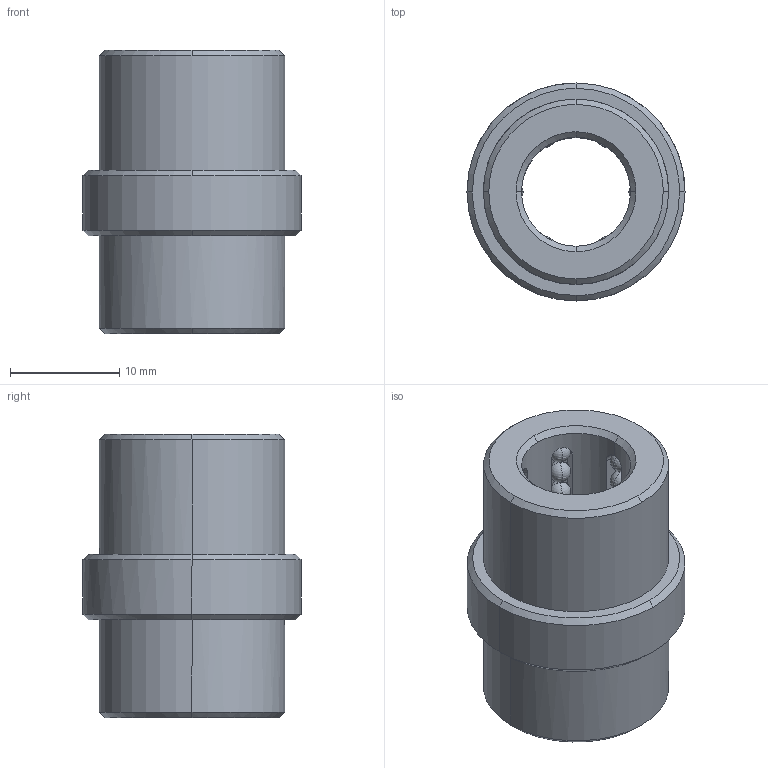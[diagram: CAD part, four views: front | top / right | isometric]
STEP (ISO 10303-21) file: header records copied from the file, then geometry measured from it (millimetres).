
FILE_DESCRIPTION(('CATIA V5 STEP Exchange'),'2;1');
FILE_NAME('C:\Users\Raffaele\Desktop\3D BOLEX\3D FILES CF BOLEX\9-BUSH REF 844\B84410917.stp','2019-06-20T12:11:42+00:00',('none'),('none'),'CATIA Version 5 Release 20 GA (IN-10)','CATIA V5 STEP AP203','none');
FILE_SCHEMA(('CONFIG_CONTROL_DESIGN'));
Length unit declared in the file: millimetre
Products named in the file (1): B84410917
Bounding box: 20 x 20 x 26 mm (x, y, z)
Volume: 4104.1 mm3; surface area: 3944 mm2
Topology: 61 solids, 61 shells, 306 faces, 882 edges, 224 vertices
Faces by surface type: sphere 240, cone 24, plane 22, cylinder 20
Entity records: 6295 total; most frequent: CARTESIAN_POINT 1406, DIRECTION 977, ORIENTED_EDGE 804, AXIS2_PLACEMENT_3D 590, EDGE_CURVE 402, EDGE_LOOP 314, ADVANCED_FACE 306, FACE_OUTER_BOUND 306
